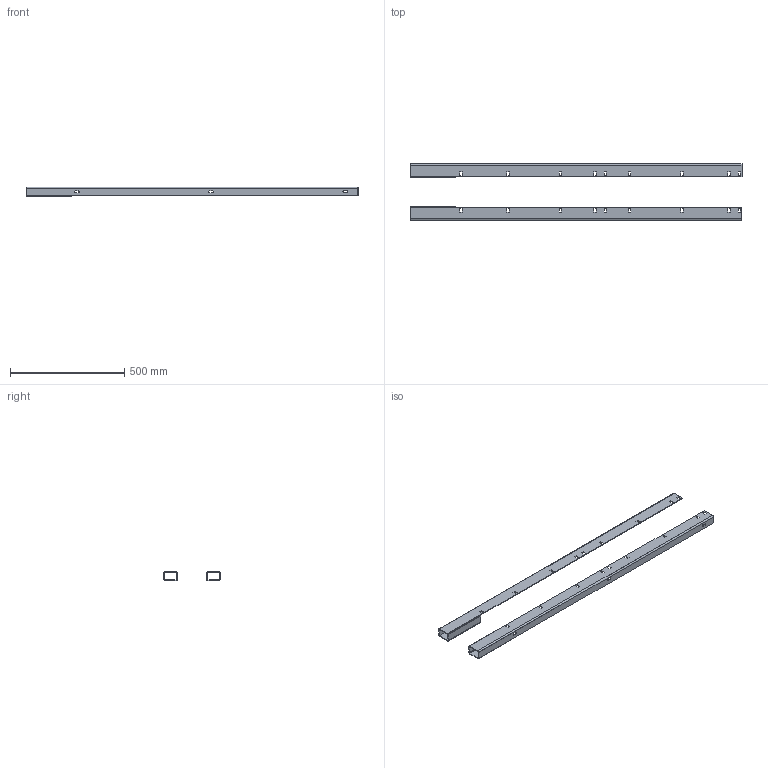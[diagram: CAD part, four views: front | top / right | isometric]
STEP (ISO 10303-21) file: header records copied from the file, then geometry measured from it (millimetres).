
FILE_DESCRIPTION (( 'STEP AP203' ), '1' );
FILE_NAME ('aspankit60.STEP', '2016-05-24T14:42:05', ( '' ), ( '' ), 'SwSTEP 2.0', 'SolidWorks 2014', '' );
FILE_SCHEMA (( 'CONFIG_CONTROL_DESIGN' ));
Length unit declared in the file: inch
Products named in the file (7): 26287002; 1; 27125001; 74450; 2; aspankit60; 26287001
Assembly tree (7 placements, depth 4):
  aspankit60
    74450
      2
        26287002
        27125001
      1
        26287001
        27125001
Bounding box: 1454.15 x 247.8 x 41.35 mm (x, y, z)
Volume: 953557.8 mm3; surface area: 614589.7 mm2
Topology: 4 solids, 4 shells, 152 faces, 400 edges, 256 vertices
Faces by surface type: plane 132, cylinder 20
Entity records: 5135 total; most frequent: CARTESIAN_POINT 763, ORIENTED_EDGE 744, DIRECTION 710, EDGE_CURVE 372, LINE 336, VECTOR 336, VERTEX_POINT 240, AXIS2_PLACEMENT_3D 187
